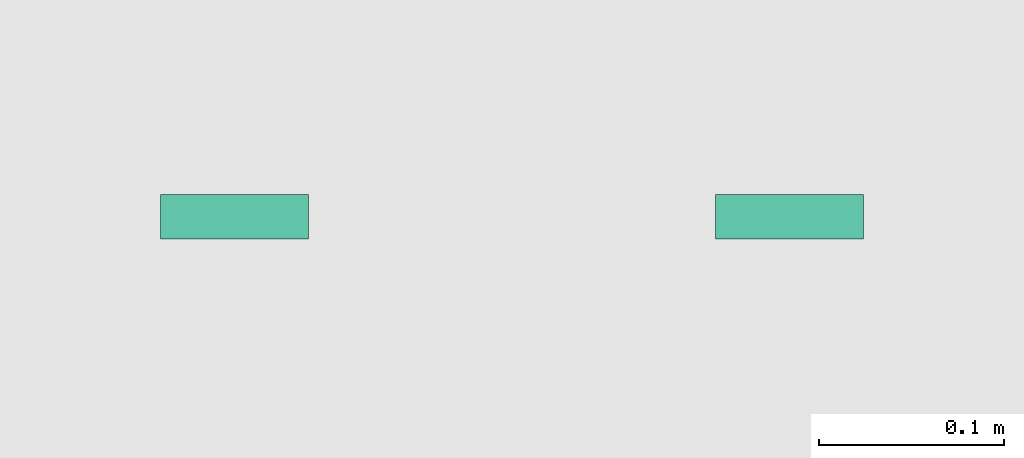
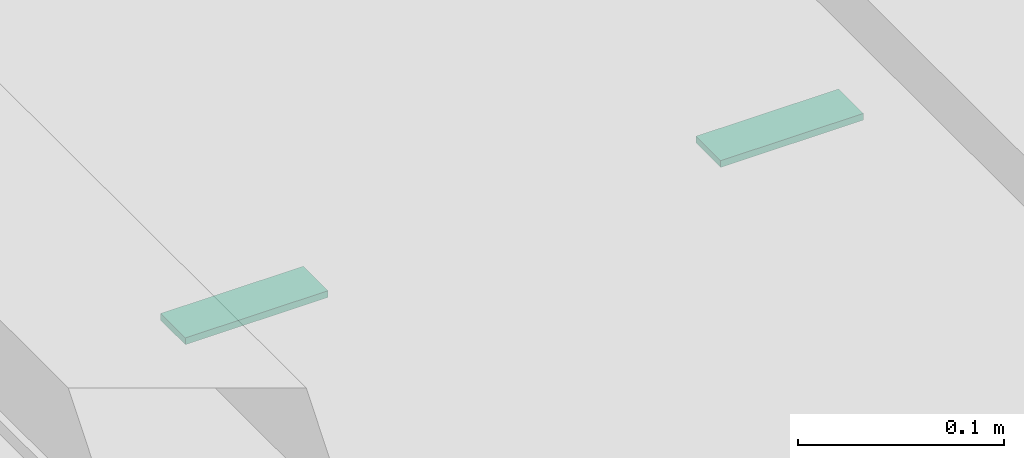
# One storey, part 137 of 177: 2 distribution chamber elements.
"""IFC4 building model written with IfcOpenShell, lengths in metres."""

from ifc_helpers import new_model, si_unit, origin, origin_with_axes, place, context, subcontext, project, spatial, triangles, element, save


model = new_model("IFC4")

# Units and contexts
model_context = context("Model", 3, precision=1e-05, world=origin_with_axes())
body_context = subcontext(model_context, "Body", "Model", "MODEL_VIEW")
ifc_project = project(units=[si_unit("LENGTHUNIT", "METRE"), si_unit("AREAUNIT", "SQUARE_METRE"), si_unit("VOLUMEUNIT", "CUBIC_METRE"), si_unit("PLANEANGLEUNIT", "RADIAN")], contexts=[model_context])

# Site, building, storey
site_placement = place(None, origin_with_axes())
site = spatial("IfcSite", under=ifc_project, at=site_placement, Name="Predio Los Mangos - Morales, San Martín", CompositionType="ELEMENT")
building_placement = place(site_placement, origin())
building = spatial("IfcBuilding", under=site, at=building_placement, Name="Hogar de Refugio Temporal", CompositionType="ELEMENT")
storey_placement = place(building_placement, origin())
storey = spatial("IfcBuildingStorey", under=building, at=storey_placement, Name="NIVEL 1 (NPT +0.00)", CompositionType="ELEMENT", Elevation=0.0)

# Distribution chamber elements
distribution_chamber_element_1_placement = place(storey_placement, origin())
element("IfcDistributionChamberElement", 1, at=distribution_chamber_element_1_placement, inside=storey, Name="tapa_insp_asa", ObjectType="Tapa de inspección", PredefinedType="INSPECTIONCHAMBER", context=body_context, shape_type="Tessellation", body=[
    triangles([(2.236, 42.78, 0.104), (2.316, 42.78, 0.104), (2.316, 42.804, 0.104), (2.236, 42.804, 0.104), (2.236, 42.78, 0.108), (2.316, 42.78, 0.108), (2.316, 42.804, 0.108), (2.236, 42.804, 0.108)], [[1, 4, 3], [1, 3, 2], [5, 6, 7], [5, 7, 8], [1, 2, 6], [1, 6, 5], [2, 3, 7], [2, 7, 6], [3, 4, 8], [3, 8, 7], [4, 1, 5], [4, 5, 8]]),
])
distribution_chamber_element_2_placement = place(storey_placement, origin())
element("IfcDistributionChamberElement", 2, at=distribution_chamber_element_2_placement, inside=storey, Name="tapa_insp_asa", ObjectType="Tapa de inspección", PredefinedType="INSPECTIONCHAMBER", context=body_context, shape_type="Tessellation", body=[
    triangles([(2.536, 42.78, 0.104), (2.616, 42.78, 0.104), (2.616, 42.804, 0.104), (2.536, 42.804, 0.104), (2.536, 42.78, 0.108), (2.616, 42.78, 0.108), (2.616, 42.804, 0.108), (2.536, 42.804, 0.108)], [[1, 4, 3], [1, 3, 2], [5, 6, 7], [5, 7, 8], [1, 2, 6], [1, 6, 5], [2, 3, 7], [2, 7, 6], [3, 4, 8], [3, 8, 7], [4, 1, 5], [4, 5, 8]]),
])

save(model, "model.ifc")
